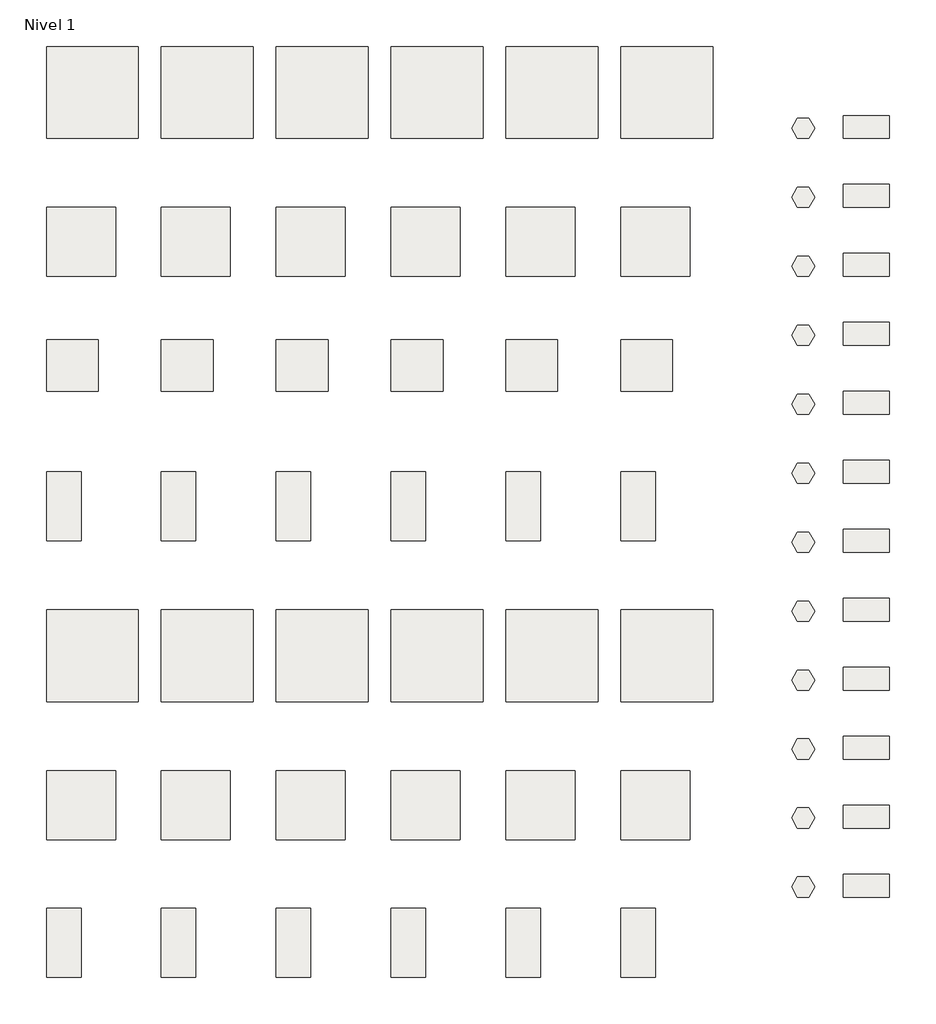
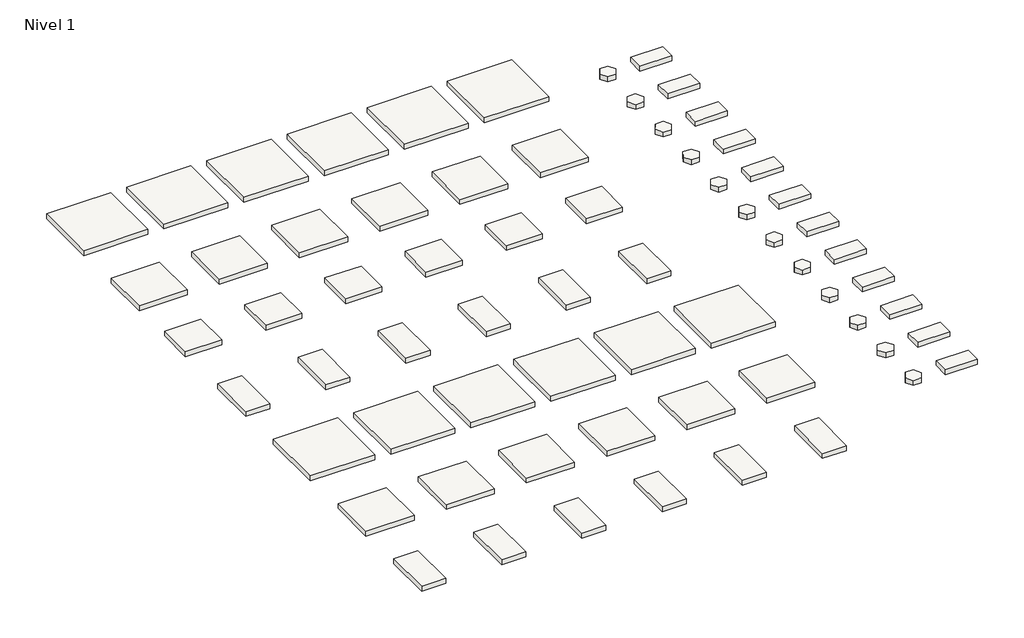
# One storey: 66 slabs.
"""IFC4 building model written with IfcOpenShell, lengths in millimetres."""

from ifc_helpers import new_model, si_unit, frame, origin, place, context, project, spatial, polyline, outline, extrude, element, save

model = new_model("IFC4")

# Units and contexts
model_context = context("Model", 3, world=origin())
ifc_project = project(units=[si_unit("LENGTHUNIT", "METRE", prefix="MILLI")], contexts=[model_context])

# Site, building, storey
site = spatial("IfcSite", under=ifc_project)
building = spatial("IfcBuilding", under=site)
storey = spatial("IfcBuildingStorey", under=building, Name="Nivel 1", Elevation=0.0)

# Slabs
placement = place(None, origin())
element("IfcSlab", 1, ObjectType="Brera Antracita 80X80", at=placement, inside=storey, context=model_context, shape_type="SweptSolid", body=[
    extrude(outline(polyline([(-6500.0, 800.0), (-5700.0, 800.0), (-5700.0, 0.0), (-6500.0, 0.0), (-6500.0, 800.0)])), frame((0.0, 0.0, -65.0), z_axis=(0.0, 0.0, 1.0), x_axis=(1.0, 0.0, 0.0)), (0.0, 0.0, 1.0), 65.0),
])
element("IfcSlab", 2, ObjectType="Brera Arena 80X80", at=placement, inside=storey, context=model_context, shape_type="SweptSolid", body=[
    extrude(outline(polyline([(-5500.0, 800.0), (-4700.0, 800.0), (-4700.0, 0.0), (-5500.0, 0.0), (-5500.0, 800.0)])), frame((0.0, 0.0, -65.0), z_axis=(0.0, 0.0, 1.0), x_axis=(1.0, 0.0, 0.0)), (0.0, 0.0, 1.0), 65.0),
])
element("IfcSlab", 3, ObjectType="Brera Blanco 80X80", at=placement, inside=storey, context=model_context, shape_type="SweptSolid", body=[
    extrude(outline(polyline([(-4500.0, 800.0), (-3700.0, 800.0), (-3700.0, 0.0), (-4500.0, 0.0), (-4500.0, 800.0)])), frame((0.0, 0.0, -65.0), z_axis=(0.0, 0.0, 1.0), x_axis=(1.0, 0.0, 0.0)), (0.0, 0.0, 1.0), 65.0),
])
element("IfcSlab", 4, ObjectType="Brera Cemento 80X80", at=placement, inside=storey, context=model_context, shape_type="SweptSolid", body=[
    extrude(outline(polyline([(-3500.0, 800.0), (-2700.0, 800.0), (-2700.0, 0.0), (-3500.0, 0.0), (-3500.0, 800.0)])), frame((0.0, 0.0, -65.0), z_axis=(0.0, 0.0, 1.0), x_axis=(1.0, 0.0, 0.0)), (0.0, 0.0, 1.0), 65.0),
])
element("IfcSlab", 5, ObjectType="Brera Gris 80X80", at=placement, inside=storey, context=model_context, shape_type="SweptSolid", body=[
    extrude(outline(polyline([(-2500.0, 800.0), (-1700.0, 800.0), (-1700.0, 0.0), (-2500.0, 0.0), (-2500.0, 800.0)])), frame((0.0, 0.0, -65.0), z_axis=(0.0, 0.0, 1.0), x_axis=(1.0, 0.0, 0.0)), (0.0, 0.0, 1.0), 65.0),
])
element("IfcSlab", 6, ObjectType="Brera Taupe 80X80", at=placement, inside=storey, context=model_context, shape_type="SweptSolid", body=[
    extrude(outline(polyline([(-1500.0, 800.0), (-700.0, 800.0), (-700.0, 0.0), (-1500.0, 0.0), (-1500.0, 800.0)])), frame((0.0, 0.0, -65.0), z_axis=(0.0, 0.0, 1.0), x_axis=(1.0, 0.0, 0.0)), (0.0, 0.0, 1.0), 65.0),
])
element("IfcSlab", 7, ObjectType="Brera Antracita 60X60", at=placement, inside=storey, context=model_context, shape_type="SweptSolid", body=[
    extrude(outline(polyline([(-6500.0, -600.0), (-5900.0, -600.0), (-5900.0, -1200.0), (-6500.0, -1200.0), (-6500.0, -600.0)])), frame((0.0, 0.0, -65.0), z_axis=(0.0, 0.0, 1.0), x_axis=(1.0, 0.0, 0.0)), (0.0, 0.0, 1.0), 65.0),
])
element("IfcSlab", 8, ObjectType="Brera Arena 60X60", at=placement, inside=storey, context=model_context, shape_type="SweptSolid", body=[
    extrude(outline(polyline([(-5500.0, -600.0), (-4900.0, -600.0), (-4900.0, -1200.0), (-5500.0, -1200.0), (-5500.0, -600.0)])), frame((0.0, 0.0, -65.0), z_axis=(0.0, 0.0, 1.0), x_axis=(1.0, 0.0, 0.0)), (0.0, 0.0, 1.0), 65.0),
])
element("IfcSlab", 9, ObjectType="Brera Blanco 60X60", at=placement, inside=storey, context=model_context, shape_type="SweptSolid", body=[
    extrude(outline(polyline([(-4500.0, -600.0), (-3900.0, -600.0), (-3900.0, -1200.0), (-4500.0, -1200.0), (-4500.0, -600.0)])), frame((0.0, 0.0, -65.0), z_axis=(0.0, 0.0, 1.0), x_axis=(1.0, 0.0, 0.0)), (0.0, 0.0, 1.0), 65.0),
])
element("IfcSlab", 10, ObjectType="Brera Cemento 60X60", at=placement, inside=storey, context=model_context, shape_type="SweptSolid", body=[
    extrude(outline(polyline([(-3500.0, -600.0), (-2900.0, -600.0), (-2900.0, -1200.0), (-3500.0, -1200.0), (-3500.0, -600.0)])), frame((0.0, 0.0, -65.0), z_axis=(0.0, 0.0, 1.0), x_axis=(1.0, 0.0, 0.0)), (0.0, 0.0, 1.0), 65.0),
])
element("IfcSlab", 11, ObjectType="Brera Gris 60X60", at=placement, inside=storey, context=model_context, shape_type="SweptSolid", body=[
    extrude(outline(polyline([(-2500.0, -600.0), (-1900.0, -600.0), (-1900.0, -1200.0), (-2500.0, -1200.0), (-2500.0, -600.0)])), frame((0.0, 0.0, -65.0), z_axis=(0.0, 0.0, 1.0), x_axis=(1.0, 0.0, 0.0)), (0.0, 0.0, 1.0), 65.0),
])
element("IfcSlab", 12, ObjectType="Brera Taupe 60X60", at=placement, inside=storey, context=model_context, shape_type="SweptSolid", body=[
    extrude(outline(polyline([(-1500.0, -600.0), (-900.0, -600.0), (-900.0, -1200.0), (-1500.0, -1200.0), (-1500.0, -600.0)])), frame((0.0, 0.0, -65.0), z_axis=(0.0, 0.0, 1.0), x_axis=(1.0, 0.0, 0.0)), (0.0, 0.0, 1.0), 65.0),
])
element("IfcSlab", 13, ObjectType="Brera Antracita 45X45", at=placement, inside=storey, context=model_context, shape_type="SweptSolid", body=[
    extrude(outline(polyline([(-6500.0, -1750.0), (-6050.0, -1750.0), (-6050.0, -2200.0), (-6500.0, -2200.0), (-6500.0, -1750.0)])), frame((0.0, 0.0, -65.0), z_axis=(0.0, 0.0, 1.0), x_axis=(1.0, 0.0, 0.0)), (0.0, 0.0, 1.0), 65.0),
])
element("IfcSlab", 14, ObjectType="Brera Arena 45X45", at=placement, inside=storey, context=model_context, shape_type="SweptSolid", body=[
    extrude(outline(polyline([(-5500.0, -1750.0), (-5050.0, -1750.0), (-5050.0, -2200.0), (-5500.0, -2200.0), (-5500.0, -1750.0)])), frame((0.0, 0.0, -65.0), z_axis=(0.0, 0.0, 1.0), x_axis=(1.0, 0.0, 0.0)), (0.0, 0.0, 1.0), 65.0),
])
element("IfcSlab", 15, ObjectType="Brera Blanco 45X45", at=placement, inside=storey, context=model_context, shape_type="SweptSolid", body=[
    extrude(outline(polyline([(-4500.0, -1750.0), (-4050.0, -1750.0), (-4050.0, -2200.0), (-4500.0, -2200.0), (-4500.0, -1750.0)])), frame((0.0, 0.0, -65.0), z_axis=(0.0, 0.0, 1.0), x_axis=(1.0, 0.0, 0.0)), (0.0, 0.0, 1.0), 65.0),
])
element("IfcSlab", 16, ObjectType="Brera Cemento 45X45", at=placement, inside=storey, context=model_context, shape_type="SweptSolid", body=[
    extrude(outline(polyline([(-3500.0, -1750.0), (-3050.0, -1750.0), (-3050.0, -2200.0), (-3500.0, -2200.0), (-3500.0, -1750.0)])), frame((0.0, 0.0, -65.0), z_axis=(0.0, 0.0, 1.0), x_axis=(1.0, 0.0, 0.0)), (0.0, 0.0, 1.0), 65.0),
])
element("IfcSlab", 17, ObjectType="Brera Gris 45X45", at=placement, inside=storey, context=model_context, shape_type="SweptSolid", body=[
    extrude(outline(polyline([(-2500.0, -1750.0), (-2050.0, -1750.0), (-2050.0, -2200.0), (-2500.0, -2200.0), (-2500.0, -1750.0)])), frame((0.0, 0.0, -65.0), z_axis=(0.0, 0.0, 1.0), x_axis=(1.0, 0.0, 0.0)), (0.0, 0.0, 1.0), 65.0),
])
element("IfcSlab", 18, ObjectType="Brera Taupe 45X45", at=placement, inside=storey, context=model_context, shape_type="SweptSolid", body=[
    extrude(outline(polyline([(-1500.0, -1750.0), (-1050.0, -1750.0), (-1050.0, -2200.0), (-1500.0, -2200.0), (-1500.0, -1750.0)])), frame((0.0, 0.0, -65.0), z_axis=(0.0, 0.0, 1.0), x_axis=(1.0, 0.0, 0.0)), (0.0, 0.0, 1.0), 65.0),
])
element("IfcSlab", 19, ObjectType="Brera Antracita 30X60", at=placement, inside=storey, context=model_context, shape_type="SweptSolid", body=[
    extrude(outline(polyline([(-6500.0, -2900.0), (-6200.0, -2900.0), (-6200.0, -3500.0), (-6500.0, -3500.0), (-6500.0, -2900.0)])), frame((0.0, 0.0, -65.0), z_axis=(0.0, 0.0, 1.0), x_axis=(1.0, 0.0, 0.0)), (0.0, 0.0, 1.0), 65.0),
])
element("IfcSlab", 20, ObjectType="Brera Arena 30X60", at=placement, inside=storey, context=model_context, shape_type="SweptSolid", body=[
    extrude(outline(polyline([(-5500.0, -2900.0), (-5200.0, -2900.0), (-5200.0, -3500.0), (-5500.0, -3500.0), (-5500.0, -2900.0)])), frame((0.0, 0.0, -65.0), z_axis=(0.0, 0.0, 1.0), x_axis=(1.0, 0.0, 0.0)), (0.0, 0.0, 1.0), 65.0),
])
element("IfcSlab", 21, ObjectType="Brera Blanco 30X60", at=placement, inside=storey, context=model_context, shape_type="SweptSolid", body=[
    extrude(outline(polyline([(-4500.0, -2900.0), (-4200.0, -2900.0), (-4200.0, -3500.0), (-4500.0, -3500.0), (-4500.0, -2900.0)])), frame((0.0, 0.0, -65.0), z_axis=(0.0, 0.0, 1.0), x_axis=(1.0, 0.0, 0.0)), (0.0, 0.0, 1.0), 65.0),
])
element("IfcSlab", 22, ObjectType="Brera Cemento 30X60", at=placement, inside=storey, context=model_context, shape_type="SweptSolid", body=[
    extrude(outline(polyline([(-3500.0, -2900.0), (-3200.0, -2900.0), (-3200.0, -3500.0), (-3500.0, -3500.0), (-3500.0, -2900.0)])), frame((0.0, 0.0, -65.0), z_axis=(0.0, 0.0, 1.0), x_axis=(1.0, 0.0, 0.0)), (0.0, 0.0, 1.0), 65.0),
])
element("IfcSlab", 23, ObjectType="Brera Gris 30X60", at=placement, inside=storey, context=model_context, shape_type="SweptSolid", body=[
    extrude(outline(polyline([(-2500.0, -2900.0), (-2200.0, -2900.0), (-2200.0, -3500.0), (-2500.0, -3500.0), (-2500.0, -2900.0)])), frame((0.0, 0.0, -65.0), z_axis=(0.0, 0.0, 1.0), x_axis=(1.0, 0.0, 0.0)), (0.0, 0.0, 1.0), 65.0),
])
element("IfcSlab", 24, ObjectType="Brera Taupe 30X60", at=placement, inside=storey, context=model_context, shape_type="SweptSolid", body=[
    extrude(outline(polyline([(-1500.0, -2900.0), (-1200.0, -2900.0), (-1200.0, -3500.0), (-1500.0, -3500.0), (-1500.0, -2900.0)])), frame((0.0, 0.0, -65.0), z_axis=(0.0, 0.0, 1.0), x_axis=(1.0, 0.0, 0.0)), (0.0, 0.0, 1.0), 65.0),
])
element("IfcSlab", 25, ObjectType="Novara Antracita 80X80", at=placement, inside=storey, context=model_context, shape_type="SweptSolid", body=[
    extrude(outline(polyline([(-6500.0, -4100.0), (-5700.0, -4100.0), (-5700.0, -4900.0), (-6500.0, -4900.0), (-6500.0, -4100.0)])), frame((0.0, 0.0, -66.3), z_axis=(0.0, 0.0, 1.0), x_axis=(1.0, 0.0, 0.0)), (0.0, 0.0, 1.0), 66.3),
])
element("IfcSlab", 26, ObjectType="Novara Arena 80X80", at=placement, inside=storey, context=model_context, shape_type="SweptSolid", body=[
    extrude(outline(polyline([(-5500.0, -4100.0), (-4700.0, -4100.0), (-4700.0, -4900.0), (-5500.0, -4900.0), (-5500.0, -4100.0)])), frame((0.0, 0.0, -66.3), z_axis=(0.0, 0.0, 1.0), x_axis=(1.0, 0.0, 0.0)), (0.0, 0.0, 1.0), 66.3),
])
element("IfcSlab", 27, ObjectType="Novara Blanco 80X80", at=placement, inside=storey, context=model_context, shape_type="SweptSolid", body=[
    extrude(outline(polyline([(-4500.0, -4100.0), (-3700.0, -4100.0), (-3700.0, -4900.0), (-4500.0, -4900.0), (-4500.0, -4100.0)])), frame((0.0, 0.0, -66.3), z_axis=(0.0, 0.0, 1.0), x_axis=(1.0, 0.0, 0.0)), (0.0, 0.0, 1.0), 66.3),
])
element("IfcSlab", 28, ObjectType="Novara Cemento 80X80", at=placement, inside=storey, context=model_context, shape_type="SweptSolid", body=[
    extrude(outline(polyline([(-3500.0, -4100.0), (-2700.0, -4100.0), (-2700.0, -4900.0), (-3500.0, -4900.0), (-3500.0, -4100.0)])), frame((0.0, 0.0, -66.3), z_axis=(0.0, 0.0, 1.0), x_axis=(1.0, 0.0, 0.0)), (0.0, 0.0, 1.0), 66.3),
])
element("IfcSlab", 29, ObjectType="Novara Gris 80X80", at=placement, inside=storey, context=model_context, shape_type="SweptSolid", body=[
    extrude(outline(polyline([(-2500.0, -4100.0), (-1700.0, -4100.0), (-1700.0, -4900.0), (-2500.0, -4900.0), (-2500.0, -4100.0)])), frame((0.0, 0.0, -66.3), z_axis=(0.0, 0.0, 1.0), x_axis=(1.0, 0.0, 0.0)), (0.0, 0.0, 1.0), 66.3),
])
element("IfcSlab", 30, ObjectType="Novara Taupe 80X80", at=placement, inside=storey, context=model_context, shape_type="SweptSolid", body=[
    extrude(outline(polyline([(-1500.0, -4100.0), (-700.0, -4100.0), (-700.0, -4900.0), (-1500.0, -4900.0), (-1500.0, -4100.0)])), frame((0.0, 0.0, -66.3), z_axis=(0.0, 0.0, 1.0), x_axis=(1.0, 0.0, 0.0)), (0.0, 0.0, 1.0), 66.3),
])
element("IfcSlab", 31, ObjectType="Novara Antracita 60X60", at=placement, inside=storey, context=model_context, shape_type="SweptSolid", body=[
    extrude(outline(polyline([(-6500.0, -5500.0), (-5900.0, -5500.0), (-5900.0, -6100.0), (-6500.0, -6100.0), (-6500.0, -5500.0)])), frame((0.0, 0.0, -65.0), z_axis=(0.0, 0.0, 1.0), x_axis=(1.0, 0.0, 0.0)), (0.0, 0.0, 1.0), 65.0),
])
element("IfcSlab", 32, ObjectType="Novara Arena 60X60", at=placement, inside=storey, context=model_context, shape_type="SweptSolid", body=[
    extrude(outline(polyline([(-5500.0, -5500.0), (-4900.0, -5500.0), (-4900.0, -6100.0), (-5500.0, -6100.0), (-5500.0, -5500.0)])), frame((0.0, 0.0, -65.0), z_axis=(0.0, 0.0, 1.0), x_axis=(1.0, 0.0, 0.0)), (0.0, 0.0, 1.0), 65.0),
])
element("IfcSlab", 33, ObjectType="Novara Blanco 60X60", at=placement, inside=storey, context=model_context, shape_type="SweptSolid", body=[
    extrude(outline(polyline([(-4500.0, -5500.0), (-3900.0, -5500.0), (-3900.0, -6100.0), (-4500.0, -6100.0), (-4500.0, -5500.0)])), frame((0.0, 0.0, -65.0), z_axis=(0.0, 0.0, 1.0), x_axis=(1.0, 0.0, 0.0)), (0.0, 0.0, 1.0), 65.0),
])
element("IfcSlab", 34, ObjectType="Novara Cemento 60X60", at=placement, inside=storey, context=model_context, shape_type="SweptSolid", body=[
    extrude(outline(polyline([(-3500.0, -5500.0), (-2900.0, -5500.0), (-2900.0, -6100.0), (-3500.0, -6100.0), (-3500.0, -5500.0)])), frame((0.0, 0.0, -65.0), z_axis=(0.0, 0.0, 1.0), x_axis=(1.0, 0.0, 0.0)), (0.0, 0.0, 1.0), 65.0),
])
element("IfcSlab", 35, ObjectType="Novara Gris 60X60", at=placement, inside=storey, context=model_context, shape_type="SweptSolid", body=[
    extrude(outline(polyline([(-2500.0, -5500.0), (-1900.0, -5500.0), (-1900.0, -6100.0), (-2500.0, -6100.0), (-2500.0, -5500.0)])), frame((0.0, 0.0, -65.0), z_axis=(0.0, 0.0, 1.0), x_axis=(1.0, 0.0, 0.0)), (0.0, 0.0, 1.0), 65.0),
])
element("IfcSlab", 36, ObjectType="Novara Taupe 60X60", at=placement, inside=storey, context=model_context, shape_type="SweptSolid", body=[
    extrude(outline(polyline([(-1500.0, -5500.0), (-900.0, -5500.0), (-900.0, -6100.0), (-1500.0, -6100.0), (-1500.0, -5500.0)])), frame((0.0, 0.0, -65.0), z_axis=(0.0, 0.0, 1.0), x_axis=(1.0, 0.0, 0.0)), (0.0, 0.0, 1.0), 65.0),
])
element("IfcSlab", 37, ObjectType="Novara Antracita 30X60", at=placement, inside=storey, context=model_context, shape_type="SweptSolid", body=[
    extrude(outline(polyline([(-6500.0, -6700.0), (-6200.0, -6700.0), (-6200.0, -7300.0), (-6500.0, -7300.0), (-6500.0, -6700.0)])), frame((0.0, 0.0, -65.0), z_axis=(0.0, 0.0, 1.0), x_axis=(1.0, 0.0, 0.0)), (0.0, 0.0, 1.0), 65.0),
])
element("IfcSlab", 38, ObjectType="Novara Arena 30X60", at=placement, inside=storey, context=model_context, shape_type="SweptSolid", body=[
    extrude(outline(polyline([(-5500.0, -6700.0), (-5200.0, -6700.0), (-5200.0, -7300.0), (-5500.0, -7300.0), (-5500.0, -6700.0)])), frame((0.0, 0.0, -65.0), z_axis=(0.0, 0.0, 1.0), x_axis=(1.0, 0.0, 0.0)), (0.0, 0.0, 1.0), 65.0),
])
element("IfcSlab", 39, ObjectType="Novara Blanco 30X60", at=placement, inside=storey, context=model_context, shape_type="SweptSolid", body=[
    extrude(outline(polyline([(-4500.0, -6700.0), (-4200.0, -6700.0), (-4200.0, -7300.0), (-4500.0, -7300.0), (-4500.0, -6700.0)])), frame((0.0, 0.0, -65.0), z_axis=(0.0, 0.0, 1.0), x_axis=(1.0, 0.0, 0.0)), (0.0, 0.0, 1.0), 65.0),
])
element("IfcSlab", 40, ObjectType="Novara Cemento 30X60", at=placement, inside=storey, context=model_context, shape_type="SweptSolid", body=[
    extrude(outline(polyline([(-3500.0, -6700.0), (-3200.0, -6700.0), (-3200.0, -7300.0), (-3500.0, -7300.0), (-3500.0, -6700.0)])), frame((0.0, 0.0, -65.0), z_axis=(0.0, 0.0, 1.0), x_axis=(1.0, 0.0, 0.0)), (0.0, 0.0, 1.0), 65.0),
])
element("IfcSlab", 41, ObjectType="Novara Gris 30X60", at=placement, inside=storey, context=model_context, shape_type="SweptSolid", body=[
    extrude(outline(polyline([(-2500.0, -6700.0), (-2200.0, -6700.0), (-2200.0, -7300.0), (-2500.0, -7300.0), (-2500.0, -6700.0)])), frame((0.0, 0.0, -65.0), z_axis=(0.0, 0.0, 1.0), x_axis=(1.0, 0.0, 0.0)), (0.0, 0.0, 1.0), 65.0),
])
element("IfcSlab", 42, ObjectType="Novara Taupe 30X60", at=placement, inside=storey, context=model_context, shape_type="SweptSolid", body=[
    extrude(outline(polyline([(-1500.0, -6700.0), (-1200.0, -6700.0), (-1200.0, -7300.0), (-1500.0, -7300.0), (-1500.0, -6700.0)])), frame((0.0, 0.0, -65.0), z_axis=(0.0, 0.0, 1.0), x_axis=(1.0, 0.0, 0.0)), (0.0, 0.0, 1.0), 65.0),
])
element("IfcSlab", 43, ObjectType="Varese Antracita 17,5X20", at=placement, inside=storey, context=model_context, shape_type="SweptSolid", body=[
    extrude(outline(polyline([(-12.4961817, 87.5), (37.5038183, 175.0), (137.5038183, 175.0), (187.5038183, 87.5), (137.5038183, 0.0), (37.5038183, 0.0), (-12.4961817, 87.5)])), frame((0.0, 0.0, -63.0), z_axis=(0.0, 0.0, 1.0), x_axis=(1.0, 0.0, 0.0)), (0.0, 0.0, 1.0), 63.0),
])
element("IfcSlab", 44, ObjectType="Varese Antracita 17,5X20", at=placement, inside=storey, context=model_context, shape_type="SweptSolid", body=[
    extrude(outline(polyline([(437.5038183, 0.0), (437.5038183, 200.0), (837.5038183, 200.0), (837.5038183, 0.0), (437.5038183, 0.0)])), frame((0.0, 0.0, -63.0), z_axis=(0.0, 0.0, 1.0), x_axis=(1.0, 0.0, 0.0)), (0.0, 0.0, 1.0), 63.0),
])
element("IfcSlab", 45, ObjectType="Varese Arena 17,5X20", at=placement, inside=storey, context=model_context, shape_type="SweptSolid", body=[
    extrude(outline(polyline([(-12.4961817, -512.5), (37.5038183, -425.0), (137.5038183, -425.0), (187.5038183, -512.5), (137.5038183, -600.0), (37.5038183, -600.0), (-12.4961817, -512.5)])), frame((0.0, 0.0, -63.0), z_axis=(0.0, 0.0, 1.0), x_axis=(1.0, 0.0, 0.0)), (0.0, 0.0, 1.0), 63.0),
])
element("IfcSlab", 46, ObjectType="Varese Arena 17,5X20", at=placement, inside=storey, context=model_context, shape_type="SweptSolid", body=[
    extrude(outline(polyline([(437.5038183, -600.0), (437.5038183, -400.0), (837.5038183, -400.0), (837.5038183, -600.0), (437.5038183, -600.0)])), frame((0.0, 0.0, -63.0), z_axis=(0.0, 0.0, 1.0), x_axis=(1.0, 0.0, 0.0)), (0.0, 0.0, 1.0), 63.0),
])
element("IfcSlab", 47, ObjectType="Varese Blanco 17,5X20", at=placement, inside=storey, context=model_context, shape_type="SweptSolid", body=[
    extrude(outline(polyline([(-12.4961817, -1112.5), (37.5038183, -1025.0), (137.5038183, -1025.0), (187.5038183, -1112.5), (137.5038183, -1200.0), (37.5038183, -1200.0), (-12.4961817, -1112.5)])), frame((0.0, 0.0, -63.0), z_axis=(0.0, 0.0, 1.0), x_axis=(1.0, 0.0, 0.0)), (0.0, 0.0, 1.0), 63.0),
])
element("IfcSlab", 48, ObjectType="Varese Blanco 17,5X20", at=placement, inside=storey, context=model_context, shape_type="SweptSolid", body=[
    extrude(outline(polyline([(437.5038183, -1200.0), (437.5038183, -1000.0), (837.5038183, -1000.0), (837.5038183, -1200.0), (437.5038183, -1200.0)])), frame((0.0, 0.0, -63.0), z_axis=(0.0, 0.0, 1.0), x_axis=(1.0, 0.0, 0.0)), (0.0, 0.0, 1.0), 63.0),
])
element("IfcSlab", 49, ObjectType="Varese Cemento 17,5X20", at=placement, inside=storey, context=model_context, shape_type="SweptSolid", body=[
    extrude(outline(polyline([(-12.4961817, -1712.5), (37.5038183, -1625.0), (137.5038183, -1625.0), (187.5038183, -1712.5), (137.5038183, -1800.0), (37.5038183, -1800.0), (-12.4961817, -1712.5)])), frame((0.0, 0.0, -63.0), z_axis=(0.0, 0.0, 1.0), x_axis=(1.0, 0.0, 0.0)), (0.0, 0.0, 1.0), 63.0),
])
element("IfcSlab", 50, ObjectType="Varese Cemento 17,5X20", at=placement, inside=storey, context=model_context, shape_type="SweptSolid", body=[
    extrude(outline(polyline([(437.5038183, -1800.0), (437.5038183, -1600.0), (837.5038183, -1600.0), (837.5038183, -1800.0), (437.5038183, -1800.0)])), frame((0.0, 0.0, -63.0), z_axis=(0.0, 0.0, 1.0), x_axis=(1.0, 0.0, 0.0)), (0.0, 0.0, 1.0), 63.0),
])
element("IfcSlab", 51, ObjectType="Varese Gris 17,5X20", at=placement, inside=storey, context=model_context, shape_type="SweptSolid", body=[
    extrude(outline(polyline([(-12.4961817, -2312.5), (37.5038183, -2225.0), (137.5038183, -2225.0), (187.5038183, -2312.5), (137.5038183, -2400.0), (37.5038183, -2400.0), (-12.4961817, -2312.5)])), frame((0.0, 0.0, -63.0), z_axis=(0.0, 0.0, 1.0), x_axis=(1.0, 0.0, 0.0)), (0.0, 0.0, 1.0), 63.0),
])
element("IfcSlab", 52, ObjectType="Varese Gris 17,5X20", at=placement, inside=storey, context=model_context, shape_type="SweptSolid", body=[
    extrude(outline(polyline([(437.5038183, -2400.0), (437.5038183, -2200.0), (837.5038183, -2200.0), (837.5038183, -2400.0), (437.5038183, -2400.0)])), frame((0.0, 0.0, -63.0), z_axis=(0.0, 0.0, 1.0), x_axis=(1.0, 0.0, 0.0)), (0.0, 0.0, 1.0), 63.0),
])
element("IfcSlab", 53, ObjectType="Varese Taupe 17,5X20", at=placement, inside=storey, context=model_context, shape_type="SweptSolid", body=[
    extrude(outline(polyline([(-12.4961817, -2912.5), (37.5038183, -2825.0), (137.5038183, -2825.0), (187.5038183, -2912.5), (137.5038183, -3000.0), (37.5038183, -3000.0), (-12.4961817, -2912.5)])), frame((0.0, 0.0, -63.0), z_axis=(0.0, 0.0, 1.0), x_axis=(1.0, 0.0, 0.0)), (0.0, 0.0, 1.0), 63.0),
])
element("IfcSlab", 54, ObjectType="Varese Taupe 17,5X20", at=placement, inside=storey, context=model_context, shape_type="SweptSolid", body=[
    extrude(outline(polyline([(437.5038183, -3000.0), (437.5038183, -2800.0), (837.5038183, -2800.0), (837.5038183, -3000.0), (437.5038183, -3000.0)])), frame((0.0, 0.0, -63.0), z_axis=(0.0, 0.0, 1.0), x_axis=(1.0, 0.0, 0.0)), (0.0, 0.0, 1.0), 63.0),
])
element("IfcSlab", 55, ObjectType="Varese Deco Antracita 17,5X20", at=placement, inside=storey, context=model_context, shape_type="SweptSolid", body=[
    extrude(outline(polyline([(-12.4961817, -3512.5), (37.5038183, -3425.0), (137.5038183, -3425.0), (187.5038183, -3512.5), (137.5038183, -3600.0), (37.5038183, -3600.0), (-12.4961817, -3512.5)])), frame((0.0, 0.0, -63.0), z_axis=(0.0, 0.0, 1.0), x_axis=(1.0, 0.0, 0.0)), (0.0, 0.0, 1.0), 63.0),
])
element("IfcSlab", 56, ObjectType="Varese Deco Antracita 17,5X20", at=placement, inside=storey, context=model_context, shape_type="SweptSolid", body=[
    extrude(outline(polyline([(437.5038183, -3600.0), (437.5038183, -3400.0), (837.5038183, -3400.0), (837.5038183, -3600.0), (437.5038183, -3600.0)])), frame((0.0, 0.0, -63.0), z_axis=(0.0, 0.0, 1.0), x_axis=(1.0, 0.0, 0.0)), (0.0, 0.0, 1.0), 63.0),
])
element("IfcSlab", 57, ObjectType="Varese Deco Arena 17,5X20", at=placement, inside=storey, context=model_context, shape_type="SweptSolid", body=[
    extrude(outline(polyline([(-12.4961817, -4112.5), (37.5038183, -4025.0), (137.5038183, -4025.0), (187.5038183, -4112.5), (137.5038183, -4200.0), (37.5038183, -4200.0), (-12.4961817, -4112.5)])), frame((0.0, 0.0, -63.0), z_axis=(0.0, 0.0, 1.0), x_axis=(1.0, 0.0, 0.0)), (0.0, 0.0, 1.0), 63.0),
])
element("IfcSlab", 58, ObjectType="Varese Deco Arena 17,5X20", at=placement, inside=storey, context=model_context, shape_type="SweptSolid", body=[
    extrude(outline(polyline([(437.5038183, -4200.0), (437.5038183, -4000.0), (837.5038183, -4000.0), (837.5038183, -4200.0), (437.5038183, -4200.0)])), frame((0.0, 0.0, -63.0), z_axis=(0.0, 0.0, 1.0), x_axis=(1.0, 0.0, 0.0)), (0.0, 0.0, 1.0), 63.0),
])
element("IfcSlab", 59, ObjectType="Varese Deco Blanco 17,5X20", at=placement, inside=storey, context=model_context, shape_type="SweptSolid", body=[
    extrude(outline(polyline([(-12.4961817, -4712.5), (37.5038183, -4625.0), (137.5038183, -4625.0), (187.5038183, -4712.5), (137.5038183, -4800.0), (37.5038183, -4800.0), (-12.4961817, -4712.5)])), frame((0.0, 0.0, -63.0), z_axis=(0.0, 0.0, 1.0), x_axis=(1.0, 0.0, 0.0)), (0.0, 0.0, 1.0), 63.0),
])
element("IfcSlab", 60, ObjectType="Varese Deco Blanco 17,5X20", at=placement, inside=storey, context=model_context, shape_type="SweptSolid", body=[
    extrude(outline(polyline([(437.5038183, -4800.0), (437.5038183, -4600.0), (837.5038183, -4600.0), (837.5038183, -4800.0), (437.5038183, -4800.0)])), frame((0.0, 0.0, -63.0), z_axis=(0.0, 0.0, 1.0), x_axis=(1.0, 0.0, 0.0)), (0.0, 0.0, 1.0), 63.0),
])
element("IfcSlab", 61, ObjectType="Varese Deco Cemento 17,5X20", at=placement, inside=storey, context=model_context, shape_type="SweptSolid", body=[
    extrude(outline(polyline([(-12.4961817, -5312.5), (37.5038183, -5225.0), (137.5038183, -5225.0), (187.5038183, -5312.5), (137.5038183, -5400.0), (37.5038183, -5400.0), (-12.4961817, -5312.5)])), frame((0.0, 0.0, -63.0), z_axis=(0.0, 0.0, 1.0), x_axis=(1.0, 0.0, 0.0)), (0.0, 0.0, 1.0), 63.0),
])
element("IfcSlab", 62, ObjectType="Varese Deco Cemento 17,5X20", at=placement, inside=storey, context=model_context, shape_type="SweptSolid", body=[
    extrude(outline(polyline([(437.5038183, -5400.0), (437.5038183, -5200.0), (837.5038183, -5200.0), (837.5038183, -5400.0), (437.5038183, -5400.0)])), frame((0.0, 0.0, -63.0), z_axis=(0.0, 0.0, 1.0), x_axis=(1.0, 0.0, 0.0)), (0.0, 0.0, 1.0), 63.0),
])
element("IfcSlab", 63, ObjectType="Varese Deco Gris 17,5X20", at=placement, inside=storey, context=model_context, shape_type="SweptSolid", body=[
    extrude(outline(polyline([(-12.4961817, -5912.5), (37.5038183, -5825.0), (137.5038183, -5825.0), (187.5038183, -5912.5), (137.5038183, -6000.0), (37.5038183, -6000.0), (-12.4961817, -5912.5)])), frame((0.0, 0.0, -63.0), z_axis=(0.0, 0.0, 1.0), x_axis=(1.0, 0.0, 0.0)), (0.0, 0.0, 1.0), 63.0),
])
element("IfcSlab", 64, ObjectType="Varese Deco Gris 17,5X20", at=placement, inside=storey, context=model_context, shape_type="SweptSolid", body=[
    extrude(outline(polyline([(437.5038183, -6000.0), (437.5038183, -5800.0), (837.5038183, -5800.0), (837.5038183, -6000.0), (437.5038183, -6000.0)])), frame((0.0, 0.0, -63.0), z_axis=(0.0, 0.0, 1.0), x_axis=(1.0, 0.0, 0.0)), (0.0, 0.0, 1.0), 63.0),
])
element("IfcSlab", 65, ObjectType="Varese Deco Taupe 17,5X20", at=placement, inside=storey, context=model_context, shape_type="SweptSolid", body=[
    extrude(outline(polyline([(-12.4961817, -6512.5), (37.5038183, -6425.0), (137.5038183, -6425.0), (187.5038183, -6512.5), (137.5038183, -6600.0), (37.5038183, -6600.0), (-12.4961817, -6512.5)])), frame((0.0, 0.0, -63.0), z_axis=(0.0, 0.0, 1.0), x_axis=(1.0, 0.0, 0.0)), (0.0, 0.0, 1.0), 63.0),
])
element("IfcSlab", 66, ObjectType="Varese Deco Taupe 17,5X20", at=placement, inside=storey, context=model_context, shape_type="SweptSolid", body=[
    extrude(outline(polyline([(437.5038183, -6600.0), (437.5038183, -6400.0), (837.5038183, -6400.0), (837.5038183, -6600.0), (437.5038183, -6600.0)])), frame((0.0, 0.0, -63.0), z_axis=(0.0, 0.0, 1.0), x_axis=(1.0, 0.0, 0.0)), (0.0, 0.0, 1.0), 63.0),
])

save(model, "model.ifc")
